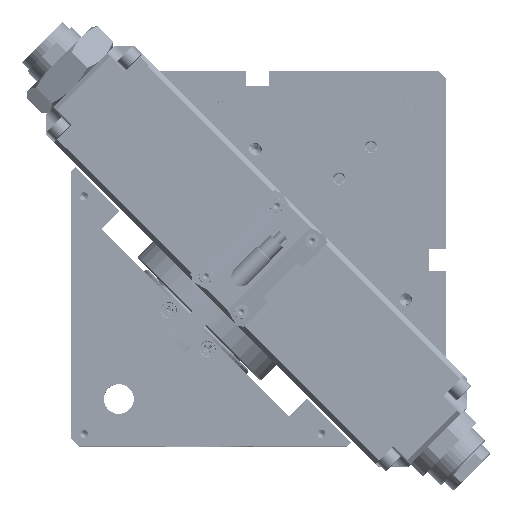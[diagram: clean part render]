
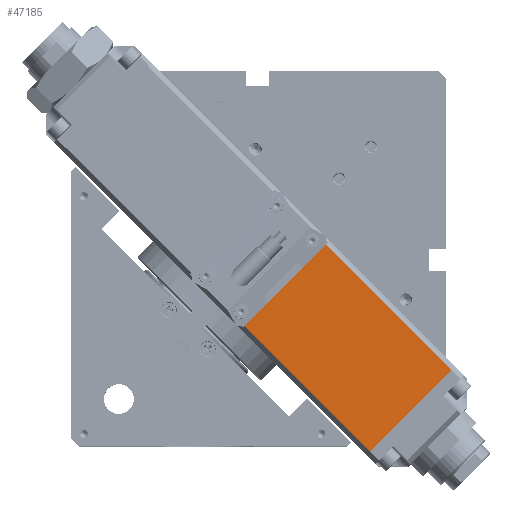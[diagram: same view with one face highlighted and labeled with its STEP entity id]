
A CAD part, top view. The second image highlights one B-rep face of the part: STEP entity #47185.
In plain terms, the highlighted planar face has unit normal (0, 0, 1).
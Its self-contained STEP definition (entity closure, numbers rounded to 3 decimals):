
#2419 = LINE ( 'NONE', #103525, #71043 ) ;
#4629 = VERTEX_POINT ( 'NONE', #6496 ) ;
#6496 = CARTESIAN_POINT ( 'NONE',  ( 58.242, -63.129, 52.896 ) ) ;
#8220 = EDGE_CURVE ( 'NONE', #71880, #120903, #82991, .T. ) ;
#12655 = EDGE_CURVE ( 'NONE', #4629, #117388, #132323, .T. ) ;
#14521 = VECTOR ( 'NONE', #15422, 1000. ) ;
#15422 = DIRECTION ( 'NONE',  ( -0.707, -0.707, 0. ) ) ;
#25242 = DIRECTION ( 'NONE',  ( 0., 0., 1. ) ) ;
#26302 = DIRECTION ( 'NONE',  ( 0.707, 0.707, 0. ) ) ;
#43878 = EDGE_CURVE ( 'NONE', #4629, #120903, #147581, .T. ) ;
#47185 = ADVANCED_FACE ( 'NONE', ( #71807 ), #166128, .T. ) ;
#71043 = VECTOR ( 'NONE', #26302, 1000. ) ;
#71807 = FACE_OUTER_BOUND ( 'NONE', #161000, .T. ) ;
#71880 = VERTEX_POINT ( 'NONE', #98855 ) ;
#82118 = DIRECTION ( 'NONE',  ( 0.707, -0.707, 0. ) ) ;
#82655 = CARTESIAN_POINT ( 'NONE',  ( -95.907, 25.967, 52.896 ) ) ;
#82786 = DIRECTION ( 'NONE',  ( -0.707, 0.707, 0. ) ) ;
#82991 = LINE ( 'NONE', #82655, #147472 ) ;
#89908 = EDGE_CURVE ( 'NONE', #71880, #117388, #2419, .T. ) ;
#95769 = CARTESIAN_POINT ( 'NONE',  ( -63.38, 58.494, 52.896 ) ) ;
#95867 = ORIENTED_EDGE ( 'NONE', *, *, #12655, .T. ) ;
#95881 = AXIS2_PLACEMENT_3D ( 'NONE', #102429, #25242, #115369 ) ;
#98855 = CARTESIAN_POINT ( 'NONE',  ( -24.489, -45.451, 52.896 ) ) ;
#102429 = CARTESIAN_POINT ( 'NONE',  ( -61.966, 59.908, 52.896 ) ) ;
#103525 = CARTESIAN_POINT ( 'NONE',  ( 9.452, -11.51, 52.896 ) ) ;
#115369 = DIRECTION ( 'NONE',  ( -0.707, -0.707, 0. ) ) ;
#117388 = VERTEX_POINT ( 'NONE', #133309 ) ;
#120044 = ORIENTED_EDGE ( 'NONE', *, *, #43878, .F. ) ;
#120903 = VERTEX_POINT ( 'NONE', #150616 ) ;
#129212 = CARTESIAN_POINT ( 'NONE',  ( 59.656, -61.715, 52.896 ) ) ;
#132323 = LINE ( 'NONE', #95769, #162573 ) ;
#133309 = CARTESIAN_POINT ( 'NONE',  ( 8.037, -12.924, 52.896 ) ) ;
#147472 = VECTOR ( 'NONE', #82118, 1000. ) ;
#147581 = LINE ( 'NONE', #129212, #14521 ) ;
#150616 = CARTESIAN_POINT ( 'NONE',  ( 25.715, -95.656, 52.896 ) ) ;
#152394 = ORIENTED_EDGE ( 'NONE', *, *, #89908, .F. ) ;
#154361 = ORIENTED_EDGE ( 'NONE', *, *, #8220, .T. ) ;
#161000 = EDGE_LOOP ( 'NONE', ( #152394, #154361, #120044, #95867 ) ) ;
#162573 = VECTOR ( 'NONE', #82786, 1000. ) ;
#166128 = PLANE ( 'NONE',  #95881 ) ;
